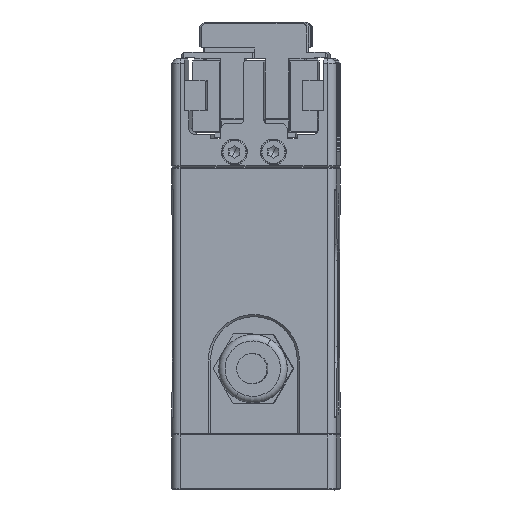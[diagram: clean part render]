
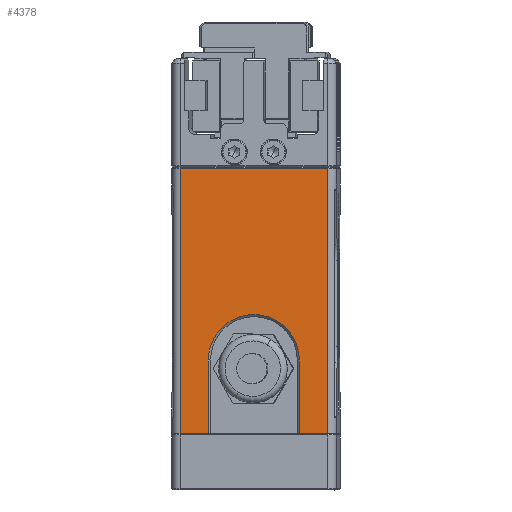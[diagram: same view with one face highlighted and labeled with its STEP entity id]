
A CAD part, left-side view. The second image highlights one B-rep face of the part: STEP entity #4378.
In plain terms, the highlighted planar face has unit normal (-1, 0.015, 0).
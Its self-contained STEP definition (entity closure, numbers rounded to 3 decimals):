
#4046=CARTESIAN_POINT('Vertex',(-33.846,10.784,-18.011)) ;
#4049=CARTESIAN_POINT('Line Origine',(-33.799,14.034,-18.011)) ;
#4053=CARTESIAN_POINT('Vertex',(-33.752,17.283,-18.011)) ;
#4102=CARTESIAN_POINT('Vertex',(-34.244,-16.713,-18.011)) ;
#4105=CARTESIAN_POINT('Line Origine',(-34.197,-13.463,-18.011)) ;
#4109=CARTESIAN_POINT('Vertex',(-34.15,-10.214,-18.011)) ;
#4305=CARTESIAN_POINT('Line Origine',(-34.15,-10.214,12.589)) ;
#4309=CARTESIAN_POINT('Vertex',(-34.15,-10.214,-1.011)) ;
#4332=CARTESIAN_POINT('Axis2P3D Location',(-34.273,-18.713,-18.011)) ;
#4337=CARTESIAN_POINT('Line Origine',(-33.846,10.784,-9.511)) ;
#4341=CARTESIAN_POINT('Vertex',(-33.846,10.784,-1.011)) ;
#4344=CARTESIAN_POINT('Axis2P3D Location',(-33.998,0.285,-1.011)) ;
#4349=CARTESIAN_POINT('Line Origine',(-34.244,-16.713,12.589)) ;
#4353=CARTESIAN_POINT('Vertex',(-34.244,-16.713,43.189)) ;
#4356=CARTESIAN_POINT('Line Origine',(-33.998,0.285,43.189)) ;
#4360=CARTESIAN_POINT('Vertex',(-33.752,17.283,43.189)) ;
#4363=CARTESIAN_POINT('Line Origine',(-33.752,17.283,12.589)) ;
#4050=DIRECTION('Vector Direction',(0.014,1.,0.)) ;
#4106=DIRECTION('Vector Direction',(0.014,1.,0.)) ;
#4306=DIRECTION('Vector Direction',(0.,0.,-1.)) ;
#4333=DIRECTION('Axis2P3D Direction',(1.,-0.014,0.)) ;
#4334=DIRECTION('Axis2P3D XDirection',(0.014,1.,0.)) ;
#4338=DIRECTION('Vector Direction',(0.,0.,1.)) ;
#4345=DIRECTION('Axis2P3D Direction',(1.,-0.014,0.)) ;
#4350=DIRECTION('Vector Direction',(0.,0.,1.)) ;
#4357=DIRECTION('Vector Direction',(0.014,1.,0.)) ;
#4364=DIRECTION('Vector Direction',(0.,0.,1.)) ;
#4335=AXIS2_PLACEMENT_3D('Plane Axis2P3D',#4332,#4333,#4334) ;
#4346=AXIS2_PLACEMENT_3D('Circle Axis2P3D',#4344,#4345,$) ;
#4369=ORIENTED_EDGE('',*,*,#4343,.F.) ;
#4370=ORIENTED_EDGE('',*,*,#4348,.F.) ;
#4371=ORIENTED_EDGE('',*,*,#4311,.F.) ;
#4372=ORIENTED_EDGE('',*,*,#4111,.T.) ;
#4373=ORIENTED_EDGE('',*,*,#4355,.T.) ;
#4374=ORIENTED_EDGE('',*,*,#4362,.T.) ;
#4375=ORIENTED_EDGE('',*,*,#4367,.F.) ;
#4376=ORIENTED_EDGE('',*,*,#4055,.T.) ;
#4051=VECTOR('Line Direction',#4050,1.) ;
#4107=VECTOR('Line Direction',#4106,1.) ;
#4307=VECTOR('Line Direction',#4306,1.) ;
#4339=VECTOR('Line Direction',#4338,1.) ;
#4351=VECTOR('Line Direction',#4350,1.) ;
#4358=VECTOR('Line Direction',#4357,1.) ;
#4365=VECTOR('Line Direction',#4364,1.) ;
#4378=ADVANCED_FACE('\X2\96F64EF651E04F554F53\X0\',(#4377),#4336,.F.) ;
#4347=CIRCLE('generated circle',#4346,10.5) ;
#4055=EDGE_CURVE('',#4054,#4047,#4052,.F.) ;
#4111=EDGE_CURVE('',#4110,#4103,#4108,.F.) ;
#4311=EDGE_CURVE('',#4110,#4310,#4308,.F.) ;
#4343=EDGE_CURVE('',#4342,#4047,#4340,.F.) ;
#4348=EDGE_CURVE('',#4310,#4342,#4347,.F.) ;
#4355=EDGE_CURVE('',#4103,#4354,#4352,.T.) ;
#4362=EDGE_CURVE('',#4354,#4361,#4359,.T.) ;
#4367=EDGE_CURVE('',#4054,#4361,#4366,.T.) ;
#4368=EDGE_LOOP('',(#4369,#4370,#4371,#4372,#4373,#4374,#4375,#4376)) ;
#4377=FACE_OUTER_BOUND('',#4368,.T.) ;
#4052=LINE('Line',#4049,#4051) ;
#4108=LINE('Line',#4105,#4107) ;
#4308=LINE('Line',#4305,#4307) ;
#4340=LINE('Line',#4337,#4339) ;
#4352=LINE('Line',#4349,#4351) ;
#4359=LINE('Line',#4356,#4358) ;
#4366=LINE('Line',#4363,#4365) ;
#4336=PLANE('Plane',#4335) ;
#4047=VERTEX_POINT('',#4046) ;
#4054=VERTEX_POINT('',#4053) ;
#4103=VERTEX_POINT('',#4102) ;
#4110=VERTEX_POINT('',#4109) ;
#4310=VERTEX_POINT('',#4309) ;
#4342=VERTEX_POINT('',#4341) ;
#4354=VERTEX_POINT('',#4353) ;
#4361=VERTEX_POINT('',#4360) ;
